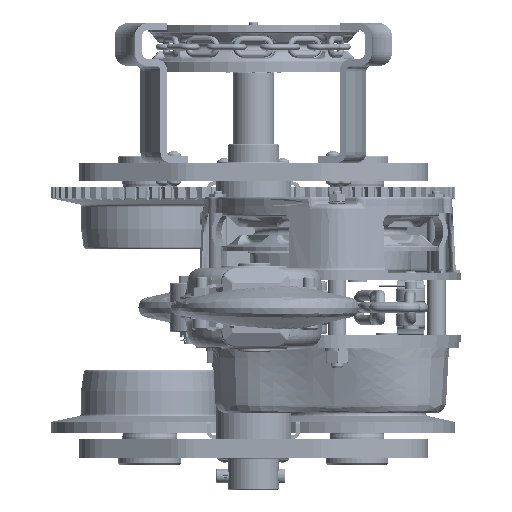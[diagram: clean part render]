
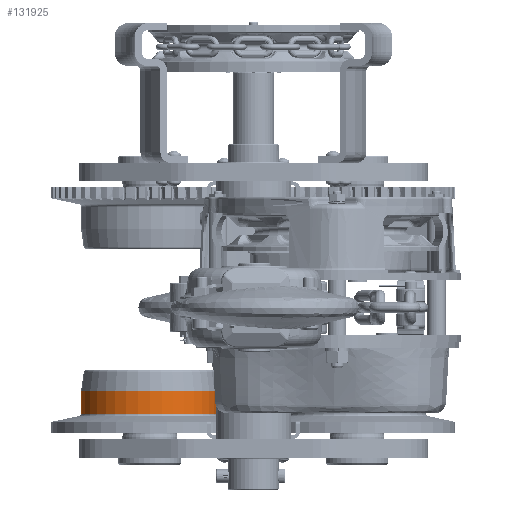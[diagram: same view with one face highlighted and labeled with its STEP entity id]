
A CAD part, front view. The second image highlights one B-rep face of the part: STEP entity #131925.
In plain terms, the highlighted cylindrical face has radius 59 mm (diameter 118 mm), a partial arc.
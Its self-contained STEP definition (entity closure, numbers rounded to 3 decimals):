
#4226 = VECTOR ( 'NONE', #82982, 1000. ) ;
#7956 = VERTEX_POINT ( 'NONE', #16035 ) ;
#14579 = CARTESIAN_POINT ( 'NONE',  ( 0., 0., 59. ) ) ;
#16035 = CARTESIAN_POINT ( 'NONE',  ( 16.62, 0., -59. ) ) ;
#16575 = EDGE_CURVE ( 'NONE', #91256, #143556, #193736, .T. ) ;
#27855 = CARTESIAN_POINT ( 'NONE',  ( 16.62, 0., 59. ) ) ;
#38624 = EDGE_CURVE ( 'NONE', #140153, #91256, #192601, .T. ) ;
#62571 = DIRECTION ( 'NONE',  ( -1., 0., 0. ) ) ;
#81122 = CARTESIAN_POINT ( 'NONE',  ( 36., 0., 59. ) ) ;
#82982 = DIRECTION ( 'NONE',  ( -1., 0., 0. ) ) ;
#89149 = AXIS2_PLACEMENT_3D ( 'NONE', #242247, #100352, #239686 ) ;
#90693 = AXIS2_PLACEMENT_3D ( 'NONE', #244362, #62571, #200602 ) ;
#91256 = VERTEX_POINT ( 'NONE', #81122 ) ;
#95637 = CARTESIAN_POINT ( 'NONE',  ( 36., 0., 0. ) ) ;
#95642 = ORIENTED_EDGE ( 'NONE', *, *, #38624, .T. ) ;
#100352 = DIRECTION ( 'NONE',  ( 1., 0., 0. ) ) ;
#103312 = EDGE_CURVE ( 'NONE', #140153, #7956, #224901, .T. ) ;
#124183 = VECTOR ( 'NONE', #153903, 1000. ) ;
#131925 = ADVANCED_FACE ( 'NONE', ( #199290 ), #159523, .T. ) ;
#140153 = VERTEX_POINT ( 'NONE', #158119 ) ;
#141764 = AXIS2_PLACEMENT_3D ( 'NONE', #95637, #233671, #176605 ) ;
#143556 = VERTEX_POINT ( 'NONE', #27855 ) ;
#146639 = CARTESIAN_POINT ( 'NONE',  ( 0., 0., -59. ) ) ;
#153903 = DIRECTION ( 'NONE',  ( -1., 0., 0. ) ) ;
#158119 = CARTESIAN_POINT ( 'NONE',  ( 36., 0., -59. ) ) ;
#159523 = CYLINDRICAL_SURFACE ( 'NONE', #90693, 59. ) ;
#176605 = DIRECTION ( 'NONE',  ( 0., 0., 1. ) ) ;
#187792 = ORIENTED_EDGE ( 'NONE', *, *, #103312, .F. ) ;
#192601 = CIRCLE ( 'NONE', #141764, 59. ) ;
#193736 = LINE ( 'NONE', #14579, #124183 ) ;
#199290 = FACE_OUTER_BOUND ( 'NONE', #232899, .T. ) ;
#200602 = DIRECTION ( 'NONE',  ( 0., 0., 1. ) ) ;
#215619 = CIRCLE ( 'NONE', #89149, 59. ) ;
#224901 = LINE ( 'NONE', #146639, #4226 ) ;
#232899 = EDGE_LOOP ( 'NONE', ( #187792, #95642, #260309, #261081 ) ) ;
#233671 = DIRECTION ( 'NONE',  ( -1., 0., 0. ) ) ;
#239686 = DIRECTION ( 'NONE',  ( 0., 0., 1. ) ) ;
#242247 = CARTESIAN_POINT ( 'NONE',  ( 16.62, 0., 0. ) ) ;
#244362 = CARTESIAN_POINT ( 'NONE',  ( 0., 0., 0. ) ) ;
#260309 = ORIENTED_EDGE ( 'NONE', *, *, #16575, .T. ) ;
#261081 = ORIENTED_EDGE ( 'NONE', *, *, #261525, .T. ) ;
#261525 = EDGE_CURVE ( 'NONE', #143556, #7956, #215619, .T. ) ;
